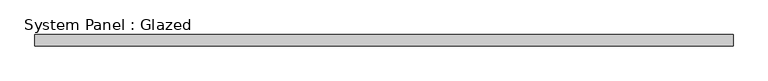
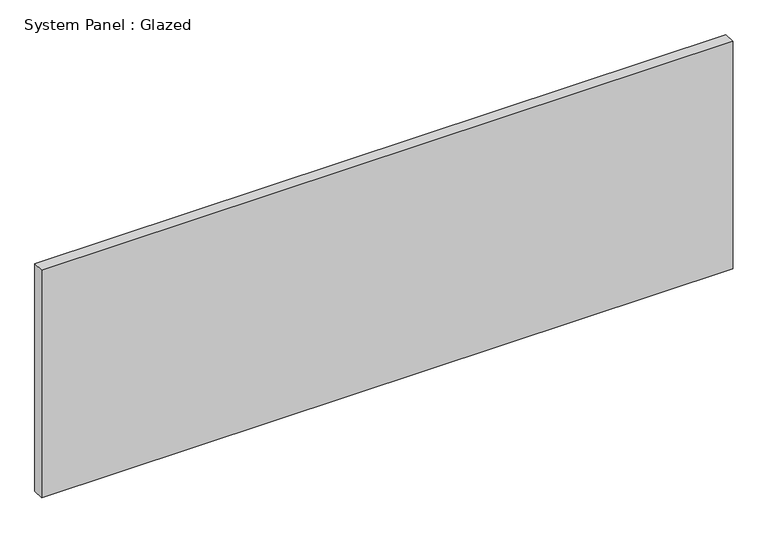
"""IFC4 building model written with IfcOpenShell, lengths in millimetres: plate geometry, System Panel : Glazed."""

from ifc_helpers import new_model, si_unit, origin, origin_with_axes, place, context, project, spatial, polyline, outline, extrude, source, transform, mapped, element, save


def system_panel_glazed_fa1729a0(model_context):
    return source(origin(), model_context, "Body", "SweptSolid", [
        extrude(outline(polyline([(755.0, -12.5), (-755.0, -12.5), (-755.0, 12.5), (755.0, 12.5), (755.0, -12.5)])), origin_with_axes(), (0.0, 0.0, 1.0), 525.0),
    ])


if __name__ == "__main__":
    model = new_model("IFC4")
    model_context = context("Model", 3, world=origin())
    ifc_project = project(units=[si_unit("LENGTHUNIT", "METRE", prefix="MILLI")], contexts=[model_context])
    site = spatial("IfcSite", under=ifc_project)
    building = spatial("IfcBuilding", under=site)
    placement = place(None, origin())
    system_panel_glazed_shape = system_panel_glazed_fa1729a0(model_context)
    element("IfcPlate", 1, ObjectType="System Panel : Glazed", at=placement, inside=building, context=model_context, shape_type="MappedRepresentation", body=[
        mapped(system_panel_glazed_shape, transform((0.0, 0.0, 0.0), x_axis=(1.0, 0.0, 0.0), y_axis=(0.0, 1.0, 0.0), z_axis=(0.0, 0.0, 1.0))),
    ])
    save(model, "model.ifc")
